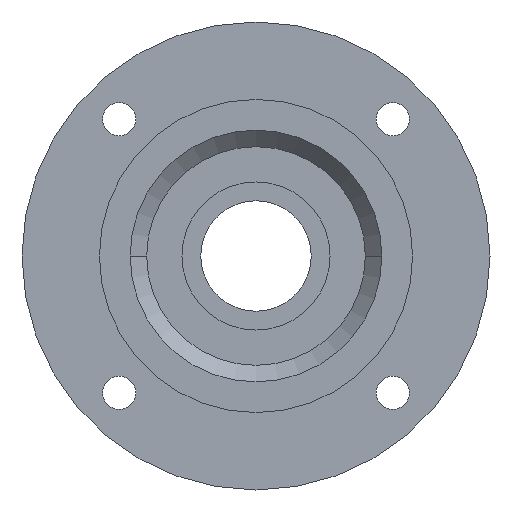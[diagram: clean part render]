
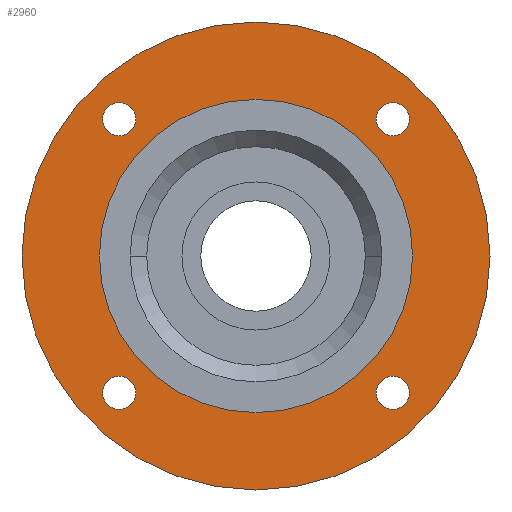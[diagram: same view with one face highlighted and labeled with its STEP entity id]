
A CAD part, left-side view. The second image highlights one B-rep face of the part: STEP entity #2960.
In plain terms, the highlighted planar face has unit normal (-1, 0, 0).
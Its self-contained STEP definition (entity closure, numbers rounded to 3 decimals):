
#120=CARTESIAN_POINT('',(-10.5,41.623,37.123));
#130=VERTEX_POINT('VERTEX14233',#120);
#160=CARTESIAN_POINT('',(-10.5,37.123,37.123));
#170=DIRECTION('',(1.,0.,0.));
#180=DIRECTION('',(0.,1.,0.));
#190=AXIS2_PLACEMENT_3D('',#160,#170,#180);
#200=CIRCLE('',#190,4.5);
#210=CARTESIAN_POINT('',(-10.5,32.623,37.123));
#220=VERTEX_POINT('',#210);
#230=EDGE_CURVE('',#130,#220,#200,.T.);
#1260=CARTESIAN_POINT('',(-10.5,-41.623,-37.123));
#1270=VERTEX_POINT('VERTEX14240',#1260);
#1430=CARTESIAN_POINT('',(-10.5,-32.623,-37.123));
#1440=VERTEX_POINT('',#1430);
#1470=CARTESIAN_POINT('',(-10.5,-37.123,-37.123));
#1480=DIRECTION('',(1.,0.,0.));
#1490=DIRECTION('',(0.,1.,0.));
#1500=AXIS2_PLACEMENT_3D('',#1470,#1480,#1490);
#1510=CIRCLE('',#1500,4.5);
#1520=EDGE_CURVE('EDGE21527',#1440,#1270,#1510,.T.);
#1680=CARTESIAN_POINT('',(-10.5,-63.5,0.));
#1690=VERTEX_POINT('',#1680);
#1720=CARTESIAN_POINT('',(-10.5,0.,0.));
#1730=DIRECTION('',(-1.,0.,0.));
#1740=DIRECTION('',(0.,1.,0.));
#1750=AXIS2_PLACEMENT_3D('',#1720,#1730,#1740);
#1760=CIRCLE('',#1750,63.5);
#1770=CARTESIAN_POINT('',(-10.5,63.5,0.));
#1780=VERTEX_POINT('',#1770);
#1790=EDGE_CURVE('',#1690,#1780,#1760,.T.);
#2100=CARTESIAN_POINT('',(-10.5,32.623,-37.123));
#2110=VERTEX_POINT('VERTEX14238',#2100);
#2270=CARTESIAN_POINT('',(-10.5,41.623,-37.123));
#2280=VERTEX_POINT('',#2270);
#2310=CARTESIAN_POINT('',(-10.5,37.123,-37.123));
#2320=DIRECTION('',(1.,0.,0.));
#2330=DIRECTION('',(0.,1.,0.));
#2340=AXIS2_PLACEMENT_3D('',#2310,#2320,#2330);
#2350=CIRCLE('',#2340,4.5);
#2360=EDGE_CURVE('EDGE21523',#2280,#2110,#2350,.T.);
#2410=CARTESIAN_POINT('',(-10.5,53.,0.));
#2420=DIRECTION('',(-1.,0.,0.));
#2430=DIRECTION('',(0.,1.,0.));
#2440=AXIS2_PLACEMENT_3D('',#2410,#2420,#2430);
#2450=PLANE('',#2440);
#2460=ORIENTED_EDGE('',*,*,#1790,.T.);
#2470=EDGE_CURVE('',#1780,#1690,#1760,.T.);
#2480=ORIENTED_EDGE('',*,*,#2470,.T.);
#2490=EDGE_LOOP('',(#2480,#2460));
#2500=FACE_OUTER_BOUND('',#2490,.T.);
#2510=EDGE_CURVE('',#1270,#1440,#1510,.T.);
#2520=ORIENTED_EDGE('',*,*,#2510,.T.);
#2530=ORIENTED_EDGE('',*,*,#1520,.T.);
#2540=EDGE_LOOP('',(#2530,#2520));
#2550=FACE_BOUND('',#2540,.T.);
#2560=CARTESIAN_POINT('',(-10.5,0.,0.));
#2570=DIRECTION('',(-1.,0.,0.));
#2580=DIRECTION('',(0.,1.,0.));
#2590=AXIS2_PLACEMENT_3D('',#2560,#2570,#2580);
#2600=CIRCLE('',#2590,42.5);
#2610=CARTESIAN_POINT('',(-10.5,42.5,0.));
#2620=VERTEX_POINT('VERTEX14242',#2610);
#2630=CARTESIAN_POINT('',(-10.5,-42.5,0.));
#2640=VERTEX_POINT('',#2630);
#2650=EDGE_CURVE('',#2620,#2640,#2600,.T.);
#2660=ORIENTED_EDGE('',*,*,#2650,.F.);
#2670=EDGE_CURVE('EDGE21531',#2640,#2620,#2600,.T.);
#2680=ORIENTED_EDGE('',*,*,#2670,.F.);
#2690=EDGE_LOOP('',(#2680,#2660));
#2700=FACE_BOUND('',#2690,.T.);
#2710=ORIENTED_EDGE('',*,*,#230,.T.);
#2720=EDGE_CURVE('EDGE21515',#220,#130,#200,.T.);
#2730=ORIENTED_EDGE('',*,*,#2720,.T.);
#2740=EDGE_LOOP('',(#2730,#2710));
#2750=FACE_BOUND('',#2740,.T.);
#2760=CARTESIAN_POINT('',(-10.5,-37.123,37.123));
#2770=DIRECTION('',(1.,0.,0.));
#2780=DIRECTION('',(0.,1.,0.));
#2790=AXIS2_PLACEMENT_3D('',#2760,#2770,#2780);
#2800=CIRCLE('',#2790,4.5);
#2810=CARTESIAN_POINT('',(-10.5,-41.623,37.123));
#2820=VERTEX_POINT('VERTEX14236',#2810);
#2830=CARTESIAN_POINT('',(-10.5,-32.623,37.123));
#2840=VERTEX_POINT('',#2830);
#2850=EDGE_CURVE('',#2820,#2840,#2800,.T.);
#2860=ORIENTED_EDGE('',*,*,#2850,.T.);
#2870=EDGE_CURVE('EDGE21519',#2840,#2820,#2800,.T.);
#2880=ORIENTED_EDGE('',*,*,#2870,.T.);
#2890=EDGE_LOOP('',(#2880,#2860));
#2900=FACE_BOUND('',#2890,.T.);
#2910=EDGE_CURVE('',#2110,#2280,#2350,.T.);
#2920=ORIENTED_EDGE('',*,*,#2910,.T.);
#2930=ORIENTED_EDGE('',*,*,#2360,.T.);
#2940=EDGE_LOOP('',(#2930,#2920));
#2950=FACE_BOUND('',#2940,.T.);
#2960=ADVANCED_FACE('',(#2500,#2550,#2700,#2750,#2900,#2950),#2450,.T.);
